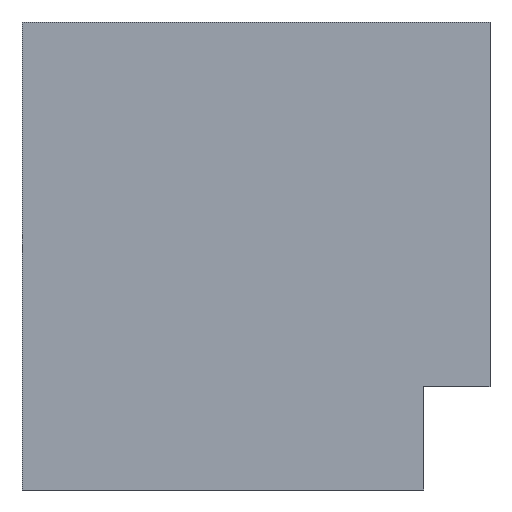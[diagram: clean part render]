
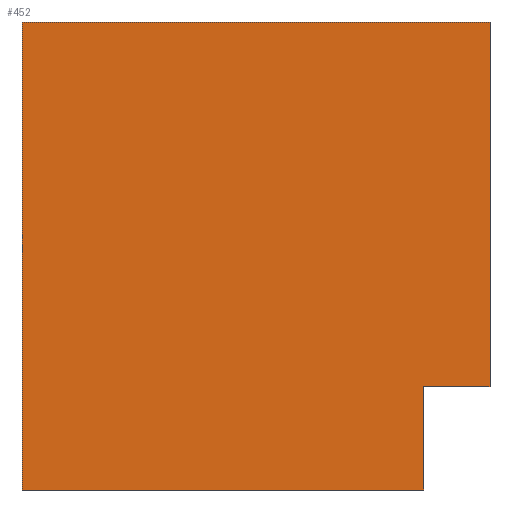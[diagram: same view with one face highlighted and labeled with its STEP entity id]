
A CAD part, left-side view. The second image highlights one B-rep face of the part: STEP entity #452.
In plain terms, the highlighted planar face has unit normal (-1, 0, 0).
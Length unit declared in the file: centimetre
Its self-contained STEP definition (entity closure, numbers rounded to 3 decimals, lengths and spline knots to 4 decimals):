
#3 = LINE ( 'NONE', #670, #224 ) ;
#14 = VECTOR ( 'NONE', #254, 100. ) ;
#59 = ORIENTED_EDGE ( 'NONE', *, *, #551, .F. ) ;
#75 = AXIS2_PLACEMENT_3D ( 'NONE', #459, #379, #582 ) ;
#86 = CARTESIAN_POINT ( 'NONE',  ( 0., 142.0485, 0. ) ) ;
#87 = ORIENTED_EDGE ( 'NONE', *, *, #387, .F. ) ;
#88 = LINE ( 'NONE', #218, #579 ) ;
#97 = ORIENTED_EDGE ( 'NONE', *, *, #514, .T. ) ;
#142 = EDGE_CURVE ( 'NONE', #212, #681, #448, .T. ) ;
#143 = CARTESIAN_POINT ( 'NONE',  ( 0., 142.0485, 220.6136 ) ) ;
#150 = CARTESIAN_POINT ( 'NONE',  ( 0., 0., 1000. ) ) ;
#164 = VECTOR ( 'NONE', #194, 100. ) ;
#186 = VECTOR ( 'NONE', #225, 100. ) ;
#194 = DIRECTION ( 'NONE',  ( 0., 0., -1. ) ) ;
#212 = VERTEX_POINT ( 'NONE', #564 ) ;
#218 = CARTESIAN_POINT ( 'NONE',  ( 0., 0., 1000. ) ) ;
#221 = LINE ( 'NONE', #756, #186 ) ;
#224 = VECTOR ( 'NONE', #274, 100. ) ;
#225 = DIRECTION ( 'NONE',  ( 0., -1., 0. ) ) ;
#229 = LINE ( 'NONE', #695, #320 ) ;
#253 = VERTEX_POINT ( 'NONE', #835 ) ;
#254 = DIRECTION ( 'NONE',  ( 0., 0., 1. ) ) ;
#274 = DIRECTION ( 'NONE',  ( 0., -1., 0. ) ) ;
#306 = EDGE_LOOP ( 'NONE', ( #97, #388, #87, #59, #704, #587 ) ) ;
#320 = VECTOR ( 'NONE', #553, 100. ) ;
#379 = DIRECTION ( 'NONE',  ( 1., 0., 0. ) ) ;
#387 = EDGE_CURVE ( 'NONE', #619, #253, #88, .T. ) ;
#388 = ORIENTED_EDGE ( 'NONE', *, *, #767, .T. ) ;
#392 = PLANE ( 'NONE',  #75 ) ;
#448 = LINE ( 'NONE', #718, #164 ) ;
#452 = ADVANCED_FACE ( 'NONE', ( #592 ), #392, .F. ) ;
#459 = CARTESIAN_POINT ( 'NONE',  ( 0., 1000., 1000. ) ) ;
#474 = CARTESIAN_POINT ( 'NONE',  ( 0., 1000., 0. ) ) ;
#514 = EDGE_CURVE ( 'NONE', #581, #625, #588, .T. ) ;
#551 = EDGE_CURVE ( 'NONE', #212, #619, #3, .T. ) ;
#553 = DIRECTION ( 'NONE',  ( 0., -1., 0. ) ) ;
#564 = CARTESIAN_POINT ( 'NONE',  ( 0., 1000., 1000. ) ) ;
#579 = VECTOR ( 'NONE', #672, 100. ) ;
#581 = VERTEX_POINT ( 'NONE', #86 ) ;
#582 = DIRECTION ( 'NONE',  ( 0., 0., -1. ) ) ;
#587 = ORIENTED_EDGE ( 'NONE', *, *, #745, .T. ) ;
#588 = LINE ( 'NONE', #853, #14 ) ;
#592 = FACE_OUTER_BOUND ( 'NONE', #306, .T. ) ;
#619 = VERTEX_POINT ( 'NONE', #150 ) ;
#625 = VERTEX_POINT ( 'NONE', #143 ) ;
#670 = CARTESIAN_POINT ( 'NONE',  ( 0., 1000., 1000. ) ) ;
#672 = DIRECTION ( 'NONE',  ( 0., 0., -1. ) ) ;
#681 = VERTEX_POINT ( 'NONE', #474 ) ;
#695 = CARTESIAN_POINT ( 'NONE',  ( 0., 1000., 0. ) ) ;
#704 = ORIENTED_EDGE ( 'NONE', *, *, #142, .T. ) ;
#718 = CARTESIAN_POINT ( 'NONE',  ( 0., 1000., 1000. ) ) ;
#745 = EDGE_CURVE ( 'NONE', #681, #581, #229, .T. ) ;
#756 = CARTESIAN_POINT ( 'NONE',  ( 0., 0., 220.6136 ) ) ;
#767 = EDGE_CURVE ( 'NONE', #625, #253, #221, .T. ) ;
#835 = CARTESIAN_POINT ( 'NONE',  ( 0., 0., 220.6136 ) ) ;
#853 = CARTESIAN_POINT ( 'NONE',  ( 0., 142.0485, 0. ) ) ;
